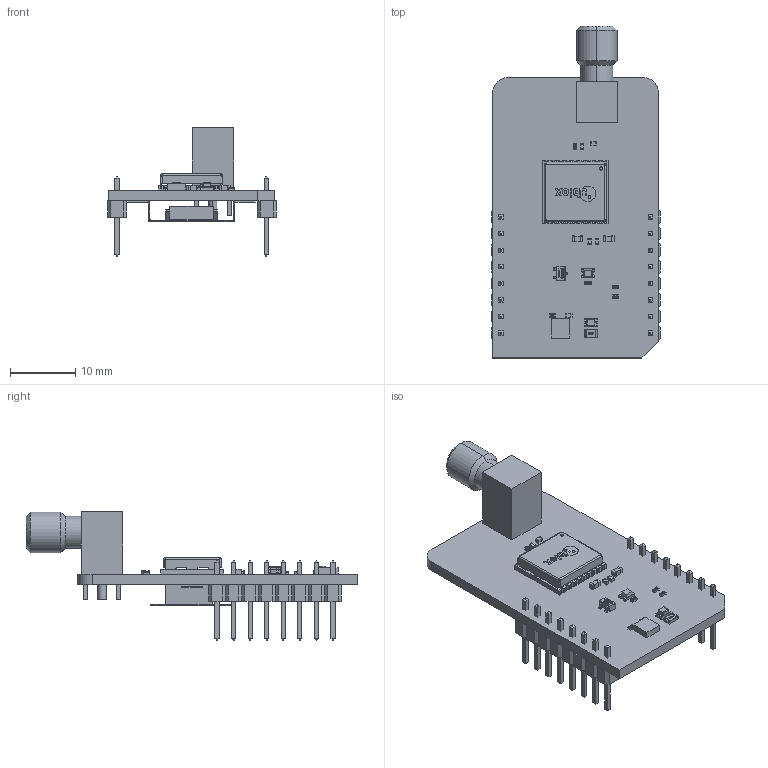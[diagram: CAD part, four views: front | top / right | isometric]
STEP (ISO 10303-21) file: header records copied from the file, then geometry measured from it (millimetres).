
FILE_DESCRIPTION(('Open CASCADE Model'),'2;1');
FILE_NAME('Open CASCADE Shape Model','2026-05-11T15:34:21',('Author'),( 'Open CASCADE'),'Open CASCADE STEP processor 7.5','Open CASCADE 7.5' ,'Unknown');
FILE_SCHEMA(('AUTOMOTIVE_DESIGN { 1 0 10303 214 1 1 1 1 }'));
Length unit declared in the file: millimetre
Products named in the file (46): PCB; Board; Open CASCADE STEP translator 7.5 6.1.1; MBD1; Header 1x8; Free-Models; 1240637040; User_Library-PinHeaderX5-1_PinHeaderX5_Body_1; User_Library-PinHeaderX5-1_PinHeaderX5_Pins_1; R1; User Library-R_0805; LD1; led_0805_green; R2; User Library-R_0402; C1; User Library-SMD CAPACITOR0402; U1; 9590140448; Extruded; BAT1; Battery Holder CR1220; C2; C3; User Library-SMD CAPACITOR0603; C4; C5; C6; CN1; User Library-sma ra pcb mount molex; L1; User Library-Chip InductorINDC1005X60N; LD2; CHIPLED-0805-RED; Q1; SOT323 (SC70-3)-1; User Library-SOT323 (SC70-3)-1_K_X_F6rper_1; User Library-SOT323 (SC70-3)-1_Beschriftung_1; User Library-SOT323 (SC70-3)-1_Pins_1; R3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
Assembly tree (57 placements, depth 7):
  PCB
    Board
      Open CASCADE STEP translator 7.5 6.1.1
    MBD1
      Header 1x8  x2
        PCB
          Free-Models
            1240637040  x2
              User_Library-PinHeaderX5-1_PinHeaderX5_Body_1
              User_Library-PinHeaderX5-1_PinHeaderX5_Pins_1
    R1
      User Library-R_0805
    LD1
      led_0805_green
    R2
      User Library-R_0402
    C1
      User Library-SMD CAPACITOR0402
    U1
      9590140448
        Extruded
    BAT1
      Battery Holder CR1220
    C2
      User Library-SMD CAPACITOR0402
    C3
      User Library-SMD CAPACITOR0603
    C4
      User Library-SMD CAPACITOR0402
    C5
      User Library-SMD CAPACITOR0402
    C6
      User Library-SMD CAPACITOR0603
    CN1
      User Library-sma ra pcb mount molex
    L1
      User Library-Chip InductorINDC1005X60N
    LD2
      CHIPLED-0805-RED
    Q1
      SOT323 (SC70-3)-1
        User Library-SOT323 (SC70-3)-1_K_X_F6rper_1
        User Library-SOT323 (SC70-3)-1_Beschriftung_1
        User Library-SOT323 (SC70-3)-1_Pins_1  x3
    R3
      User Library-R_0402
    R4
      User Library-R_0402
    U2
      User Library-MAX-M8 u-blox M8 Concurrent GNSS Module
    R5
      User Library-R_0402
    R6
      User Library-R_0402
Bounding box: 25.78 x 50.83 x 19.66 mm (x, y, z)
Volume: 2959.5 mm3; surface area: 5364.2 mm2
Topology: 125 solids, 126 shells, 2915 faces, 7120 edges, 4466 vertices
Faces by surface type: plane 1892, bspline 614, cylinder 340, sphere 60, torus 5, cone 4
Entity records: 71272 total; most frequent: CARTESIAN_POINT 18437, ORIENTED_EDGE 9402, DIRECTION 7374, EDGE_CURVE 4722, LINE 3328, VECTOR 3328, VERTEX_POINT 3026, FACE_BOUND 2038
